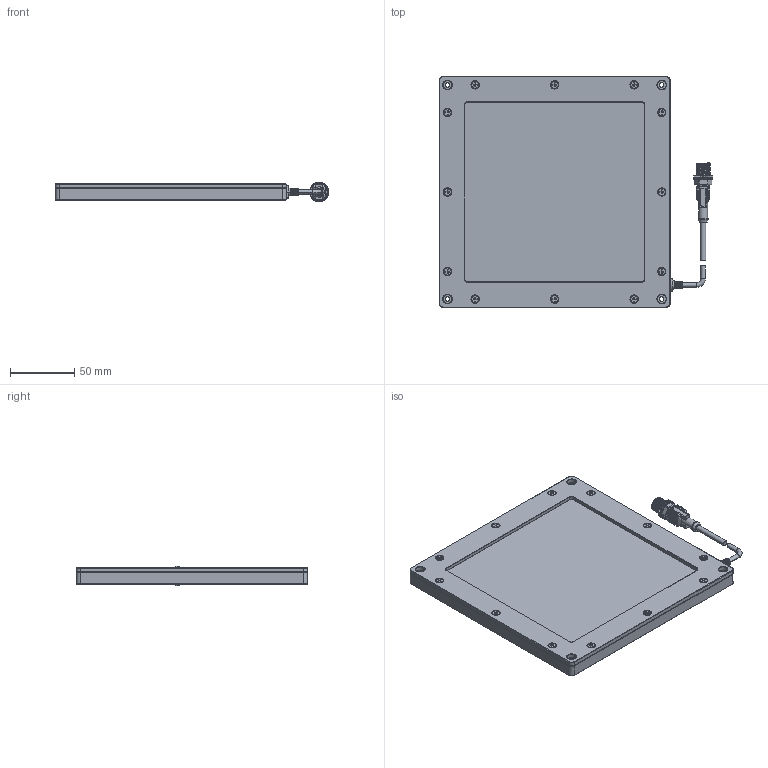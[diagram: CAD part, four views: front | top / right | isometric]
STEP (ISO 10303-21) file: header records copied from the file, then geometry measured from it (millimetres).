
FILE_DESCRIPTION (( 'STEP AP214' ), '1' );
FILE_NAME ('EFFI-WINDOW-140x140-ZZZ.STEP', '2026-04-22T11:07:07', ( '' ), ( '' ), 'SwSTEP 2.0', 'SolidWorks 2025', '' );
FILE_SCHEMA (( 'AUTOMOTIVE_DESIGN' ));
Length unit declared in the file: millimetre
Products named in the file (1): EFFI-WINDOW-140x140-ZZZ
Bounding box: 213.31 x 180.01 x 14.99 mm (x, y, z)
Volume: 326037.3 mm3; surface area: 92129.3 mm2
Topology: 3 solids, 3 shells, 1804 faces, 4641 edges, 2957 vertices
Faces by surface type: plane 848, cylinder 471, bspline 320, cone 124, torus 34, sphere 7
Entity records: 99605 total; most frequent: CARTESIAN_POINT 38152, ORIENTED_EDGE 9268, DIRECTION 7497, EDGE_CURVE 4634, VERTEX_POINT 2957, VECTOR 2799, LINE 2799, AXIS2_PLACEMENT_3D 2349
